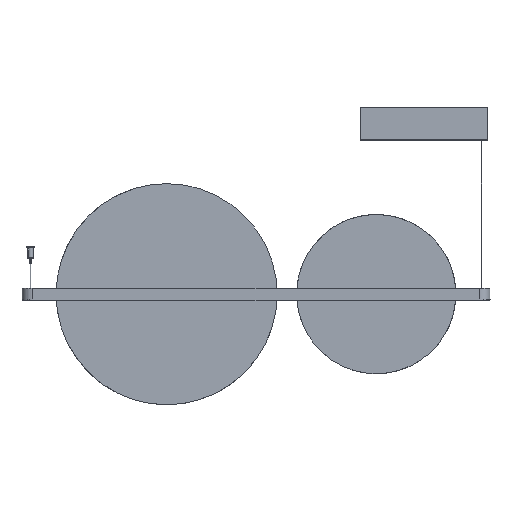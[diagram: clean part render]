
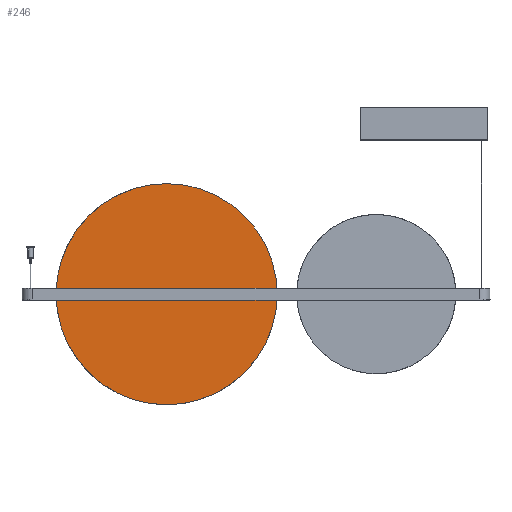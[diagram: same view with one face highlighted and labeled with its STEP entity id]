
A CAD part, front view. The second image highlights one B-rep face of the part: STEP entity #246.
In plain terms, the highlighted planar face has unit normal (0, -1, 0).
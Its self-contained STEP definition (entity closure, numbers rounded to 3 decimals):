
#246=ADVANCED_FACE('',(#781),#9819,.T.);
#781=FACE_OUTER_BOUND('',#1316,.T.);
#1316=EDGE_LOOP('',(#1885,#1886,#1887));
#1885=ORIENTED_EDGE('',*,*,#4951,.F.);
#1886=ORIENTED_EDGE('',*,*,#4953,.F.);
#1887=ORIENTED_EDGE('',*,*,#4946,.F.);
#4946=EDGE_CURVE('',#8502,#8503,#6723,.T.);
#4951=EDGE_CURVE('',#8507,#8502,#6726,.T.);
#4953=EDGE_CURVE('',#8503,#8507,#6728,.T.);
#6723=(
BOUNDED_CURVE()
B_SPLINE_CURVE(2,(#11655,#11656,#11657),.UNSPECIFIED.,.F.,.F.)
B_SPLINE_CURVE_WITH_KNOTS((3,3),(0.,500.),.UNSPECIFIED.)
CURVE()
GEOMETRIC_REPRESENTATION_ITEM()
RATIONAL_B_SPLINE_CURVE((1.,0.707,1.))
REPRESENTATION_ITEM('')
);
#6726=(
BOUNDED_CURVE()
B_SPLINE_CURVE(2,(#11670,#11671,#11672,#11673,#11674),.UNSPECIFIED.,.F.,
 .F.)
B_SPLINE_CURVE_WITH_KNOTS((3,2,3),(0.,500.,1000.),.UNSPECIFIED.)
CURVE()
GEOMETRIC_REPRESENTATION_ITEM()
RATIONAL_B_SPLINE_CURVE((1.,0.707,1.,0.707,1.))
REPRESENTATION_ITEM('')
);
#6728=(
BOUNDED_CURVE()
B_SPLINE_CURVE(2,(#11678,#11679,#11680),.UNSPECIFIED.,.F.,.F.)
B_SPLINE_CURVE_WITH_KNOTS((3,3),(0.,500.),.UNSPECIFIED.)
CURVE()
GEOMETRIC_REPRESENTATION_ITEM()
RATIONAL_B_SPLINE_CURVE((1.,0.707,1.))
REPRESENTATION_ITEM('')
);
#8502=VERTEX_POINT('',#11649);
#8503=VERTEX_POINT('',#11650);
#8507=VERTEX_POINT('',#11654);
#9819=PLANE('',#10589);
#10589=AXIS2_PLACEMENT_3D('',#11648,#11101,$);
#11101=DIRECTION('',(0.,-1.,0.));
#11648=CARTESIAN_POINT('',(-502.127,-4.25,-300.185));
#11649=CARTESIAN_POINT('',(-452.115,-4.25,-0.173));
#11650=CARTESIAN_POINT('',(-202.115,-4.25,249.827));
#11654=CARTESIAN_POINT('',(47.885,-4.25,-0.173));
#11655=CARTESIAN_POINT('',(-452.115,-4.25,-0.173));
#11656=CARTESIAN_POINT('',(-452.115,-4.25,249.827));
#11657=CARTESIAN_POINT('',(-202.115,-4.25,249.827));
#11670=CARTESIAN_POINT('',(47.885,-4.25,-0.173));
#11671=CARTESIAN_POINT('',(47.885,-4.25,-250.173));
#11672=CARTESIAN_POINT('',(-202.115,-4.25,-250.173));
#11673=CARTESIAN_POINT('',(-452.115,-4.25,-250.173));
#11674=CARTESIAN_POINT('',(-452.115,-4.25,-0.173));
#11678=CARTESIAN_POINT('',(-202.115,-4.25,249.827));
#11679=CARTESIAN_POINT('',(47.885,-4.25,249.827));
#11680=CARTESIAN_POINT('',(47.885,-4.25,-0.173));
